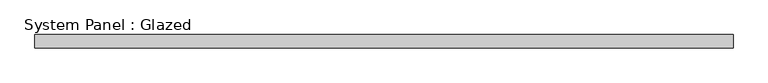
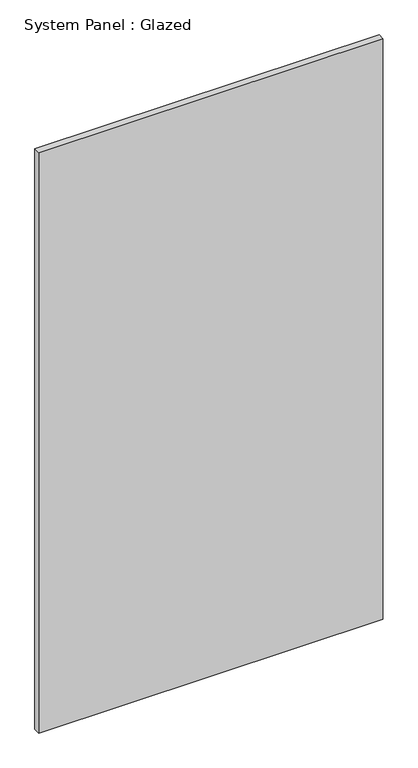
"""IFC4 building model written with IfcOpenShell, lengths in millimetres: plate geometry, System Panel : Glazed."""

import ifcopenshell
import ifcopenshell.guid

model = None  # the IFC model being written
_history = None  # IfcOwnerHistory: only IFC2X3 demands one
_inside = {}  # id of a spatial element -> (the spatial element, [elements in it])
_under = {}  # id of a project, library or spatial element -> (it, [spatial elements below it])
_declared = {}  # id of a project -> (the project, [libraries it declares])
_typed = {}  # id of a type object -> (the type object, [elements of that type])
_made_of = {}  # id of a material, layer set ... -> (it, [elements and type objects made of it])


def new_model(schema):
    """Start an empty IFC model of exactly this schema.

    Asked for "IFC4X3", IfcOpenShell would pick the latest addendum, in which some entities
    have other attributes; the version numbers below select the first issue.
    IFC2X3 requires an IfcOwnerHistory on every rooted entity: one is made here for all.
    """
    global model, _history
    if schema == "IFC4X3":
        model = ifcopenshell.file(schema_version=(4, 3, 0, 0))
    else:
        model = ifcopenshell.file(schema=schema)
    _inside.clear()
    _under.clear()
    _declared.clear()
    _typed.clear()
    _made_of.clear()
    _history = None
    if model.schema == "IFC2X3":
        org = make("IfcOrganization", Name="unknown")
        user = make(
            "IfcPersonAndOrganization",
            ThePerson=make("IfcPerson", FamilyName="unknown"),
            TheOrganization=org,
        )
        app = make(
            "IfcApplication",
            ApplicationDeveloper=org,
            Version="unknown",
            ApplicationFullName="unknown",
            ApplicationIdentifier="unknown",
        )
        _history = make(
            "IfcOwnerHistory",
            OwningUser=user,
            OwningApplication=app,
            ChangeAction="ADDED",
            CreationDate=0,
        )
    return model


def make(cls, **values):
    """One entity of the class cls with the attributes given. An attribute that is None is left unset."""
    return model.create_entity(
        cls, **{name: value for name, value in values.items() if value is not None}
    )


def rooted(cls, **values):
    """An entity with a GlobalId (a new one), such as an element, a storey or a relation."""
    return make(cls, GlobalId=ifcopenshell.guid.new(), OwnerHistory=_history, **values)


def si_unit(unit_type, name, prefix=None):
    """IfcSIUnit, for example si_unit("LENGTHUNIT", "METRE", prefix="MILLI")."""
    return make("IfcSIUnit", UnitType=unit_type, Prefix=prefix, Name=name)


def assignment(units):
    """IfcUnitAssignment: the units of a project."""
    return None if units is None else make("IfcUnitAssignment", Units=units)


def point(xyz):
    """IfcCartesianPoint."""
    return None if xyz is None else make("IfcCartesianPoint", Coordinates=xyz)


def direction(xyz):
    """IfcDirection."""
    return None if xyz is None else make("IfcDirection", DirectionRatios=xyz)


def frame(location, z_axis=None, x_axis=None):
    """IfcAxis2Placement3D, a coordinate frame: its origin and axes. An axis left out is left unset."""
    return make(
        "IfcAxis2Placement3D",
        Location=point(location),
        Axis=direction(z_axis),
        RefDirection=direction(x_axis),
    )


def origin():
    """The frame at (0, 0, 0) with its axes left unset."""
    return frame((0.0, 0.0, 0.0))


def origin_with_axes():
    """The frame at (0, 0, 0) with the z axis (0, 0, 1) and the x axis (1, 0, 0) written out."""
    return frame((0.0, 0.0, 0.0), z_axis=(0.0, 0.0, 1.0), x_axis=(1.0, 0.0, 0.0))


def place(relative_to, where):
    """IfcLocalPlacement: puts the frame where relative to a parent placement (None: the world)."""
    return make(
        "IfcLocalPlacement", PlacementRelTo=relative_to, RelativePlacement=where
    )


def context(
    kind, dimensions, precision=None, world=None, true_north=None, identifier=None
):
    """IfcGeometricRepresentationContext, for example the 3D "Model" context."""
    return make(
        "IfcGeometricRepresentationContext",
        ContextIdentifier=identifier,
        ContextType=kind,
        CoordinateSpaceDimension=dimensions,
        Precision=precision,
        WorldCoordinateSystem=world,
        TrueNorth=true_north,
    )


def project(units=None, contexts=None):
    """IfcProject with its units and contexts."""
    return rooted(
        "IfcProject",
        Name="project",
        RepresentationContexts=contexts,
        UnitsInContext=assignment(units),
    )


def spatial(cls, under=None, at=None, **own):
    """A site, building, storey or space (cls), placed at a placement, below another one or the project."""
    s = rooted(cls, ObjectPlacement=at, **own)
    if under is not None:
        _under.setdefault(under.id(), (under, []))[1].append(s)
    return s


def polyline(points):
    """IfcPolyline through the points."""
    return make("IfcPolyline", Points=[point(p) for p in points])


def outline(outer, holes=None, kind="AREA"):
    """IfcArbitraryClosedProfileDef: a profile drawn as a closed curve; with holes, ...WithVoids."""
    if holes is None:
        return make("IfcArbitraryClosedProfileDef", ProfileType=kind, OuterCurve=outer)
    return make(
        "IfcArbitraryProfileDefWithVoids",
        ProfileType=kind,
        OuterCurve=outer,
        InnerCurves=holes,
    )


def extrude(swept, where, along, depth):
    """IfcExtrudedAreaSolid: the profile swept, set in the frame where, extruded along a direction by depth."""
    return make(
        "IfcExtrudedAreaSolid",
        SweptArea=swept,
        Position=where,
        ExtrudedDirection=direction(along),
        Depth=depth,
    )


def shape(context_of_items, identifier, shape_type, items):
    """IfcShapeRepresentation: the items that make up one representation, for example the "Body"."""
    return make(
        "IfcShapeRepresentation",
        ContextOfItems=context_of_items,
        RepresentationIdentifier=identifier,
        RepresentationType=shape_type,
        Items=items,
    )


def source(mapping_origin, context_of_items, identifier, shape_type, items):
    """IfcRepresentationMap: a shape defined once, which mapped items show again and again."""
    return make(
        "IfcRepresentationMap",
        MappingOrigin=mapping_origin,
        MappedRepresentation=shape(context_of_items, identifier, shape_type, items),
    )


def transform(
    local_origin,
    x_axis=None,
    y_axis=None,
    z_axis=None,
    scale=None,
    scale2=None,
    scale3=None,
    uniform=True,
):
    """IfcCartesianTransformationOperator3D, or its non-uniform kind. x_axis, y_axis, z_axis: its Axis1, 2, 3."""
    if uniform:
        return make(
            "IfcCartesianTransformationOperator3D",
            Axis1=direction(x_axis),
            Axis2=direction(y_axis),
            LocalOrigin=point(local_origin),
            Scale=scale,
            Axis3=direction(z_axis),
        )
    return make(
        "IfcCartesianTransformationOperator3DnonUniform",
        Axis1=direction(x_axis),
        Axis2=direction(y_axis),
        LocalOrigin=point(local_origin),
        Scale=scale,
        Axis3=direction(z_axis),
        Scale2=scale2,
        Scale3=scale3,
    )


def mapped(mapping_source, mapping_target):
    """IfcMappedItem: shows the shape of a source again, moved by a transform."""
    return make(
        "IfcMappedItem", MappingSource=mapping_source, MappingTarget=mapping_target
    )


def made_of(thing, what):
    """Note that an element or type object is made of a material, layer set ...; save() writes the relation."""
    if what is not None:
        _made_of.setdefault(what.id(), (what, []))[1].append(thing)
    return thing


def element(
    cls,
    number,
    at=None,
    inside=None,
    cuts=None,
    type_object=None,
    material=None,
    context=None,
    identifier="Body",
    shape_type=None,
    held_by="IfcProductDefinitionShape",
    body=None,
    shapes=None,
    **own,
):
    """One element of the class cls, such as IfcWall. Its Tag is "e" and its number.

    at: its placement. inside: the storey or other place that contains it. cuts: it is an
    opening in that element (IfcRelVoidsElement). A single representation is given by context,
    identifier, shape_type and body (its items); several are given by shapes. held_by: the class
    of the entity that holds the representations. save() writes the other relations.
    """
    e = rooted(cls, Tag="e%d" % number, ObjectPlacement=at, **own)
    if body is not None:
        shapes = [shape(context, identifier, shape_type, body)]
    if shapes is not None:
        e.Representation = make(held_by, Representations=shapes)
    if inside is not None:
        _inside.setdefault(inside.id(), (inside, []))[1].append(e)
    if cuts is not None:
        rooted(
            "IfcRelVoidsElement", RelatingBuildingElement=cuts, RelatedOpeningElement=e
        )
    if type_object is not None:
        _typed.setdefault(type_object.id(), (type_object, []))[1].append(e)
    return made_of(e, material)


def aggregate(whole, parts):
    """IfcRelAggregates: a whole, such as a stair, and the parts it consists of."""
    return rooted("IfcRelAggregates", RelatingObject=whole, RelatedObjects=parts)


def save(model, path):
    """Write the relations noted so far, then the file.

    IfcRelAggregates (storeys below a building ...), IfcRelContainedInSpatialStructure (elements
    in a storey), IfcRelDefinesByType, IfcRelAssociatesMaterial and IfcRelDeclares: one each for
    every whole, place, type object, material and project.
    """
    for whole, parts in _under.values():
        aggregate(whole, parts)
    for where, things in _inside.values():
        rooted(
            "IfcRelContainedInSpatialStructure",
            RelatedElements=things,
            RelatingStructure=where,
        )
    for kind, things in _typed.values():
        rooted("IfcRelDefinesByType", RelatedObjects=things, RelatingType=kind)
    for what, things in _made_of.values():
        rooted("IfcRelAssociatesMaterial", RelatedObjects=things, RelatingMaterial=what)
    for by, libraries in _declared.values():
        rooted("IfcRelDeclares", RelatingContext=by, RelatedDefinitions=libraries)
    model.write(path)


def system_panel_glazed_231014a1(model_context):
    return source(origin(), model_context, "Body", "SweptSolid", [
        extrude(outline(polyline([(663.0142443, -49.5), (-663.0142443, -49.5), (-663.0142443, -24.5), (663.0142443, -24.5), (663.0142443, -49.5)])), origin_with_axes(), (0.0, 0.0, 1.0), 2365.0),
    ])


if __name__ == "__main__":
    model = new_model("IFC4")
    model_context = context("Model", 3, world=origin())
    ifc_project = project(units=[si_unit("LENGTHUNIT", "METRE", prefix="MILLI")], contexts=[model_context])
    site = spatial("IfcSite", under=ifc_project)
    building = spatial("IfcBuilding", under=site)
    placement = place(None, origin())
    system_panel_glazed_shape = system_panel_glazed_231014a1(model_context)
    element("IfcPlate", 1, ObjectType="System Panel : Glazed", at=placement, inside=building, context=model_context, shape_type="MappedRepresentation", body=[
        mapped(system_panel_glazed_shape, transform((0.0, 0.0, 0.0), x_axis=(1.0, 0.0, 0.0), y_axis=(0.0, 1.0, 0.0), z_axis=(0.0, 0.0, 1.0))),
    ])
    save(model, "model.ifc")
